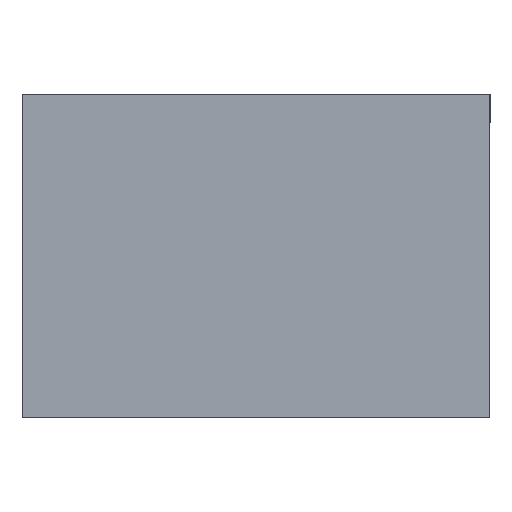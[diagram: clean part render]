
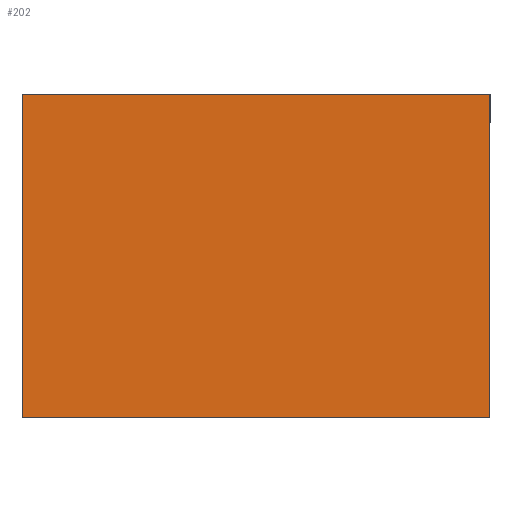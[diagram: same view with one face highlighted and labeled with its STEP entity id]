
A CAD part, front view. The second image highlights one B-rep face of the part: STEP entity #202.
In plain terms, the highlighted planar face has unit normal (0, -1, 0).
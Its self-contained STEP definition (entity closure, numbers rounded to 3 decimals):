
#45 = VECTOR ( 'NONE', #1261, 1000. ) ;
#56 = VECTOR ( 'NONE', #1037, 1000. ) ;
#69 = DIRECTION ( 'NONE',  ( 0., 0., 1. ) ) ;
#71 = AXIS2_PLACEMENT_3D ( 'NONE', #606, #501, #69 ) ;
#92 = LINE ( 'NONE', #189, #140 ) ;
#140 = VECTOR ( 'NONE', #186, 1000. ) ;
#172 = VERTEX_POINT ( 'NONE', #1539 ) ;
#186 = DIRECTION ( 'NONE',  ( 0., 0., -1. ) ) ;
#189 = CARTESIAN_POINT ( 'NONE',  ( 32.5, 0., -22.5 ) ) ;
#202 = ADVANCED_FACE ( 'NONE', ( #1115 ), #996, .F. ) ;
#302 = CARTESIAN_POINT ( 'NONE',  ( -32.5, 0., -22.5 ) ) ;
#359 = LINE ( 'NONE', #1275, #45 ) ;
#473 = CARTESIAN_POINT ( 'NONE',  ( 32.5, 0., 22.5 ) ) ;
#501 = DIRECTION ( 'NONE',  ( 0., 1., 0. ) ) ;
#606 = CARTESIAN_POINT ( 'NONE',  ( 0., 0., 0. ) ) ;
#610 = CARTESIAN_POINT ( 'NONE',  ( -32.5, 0., 22.5 ) ) ;
#795 = ORIENTED_EDGE ( 'NONE', *, *, #1024, .F. ) ;
#849 = EDGE_CURVE ( 'NONE', #2027, #2033, #359, .T. ) ;
#890 = ORIENTED_EDGE ( 'NONE', *, *, #941, .F. ) ;
#941 = EDGE_CURVE ( 'NONE', #2033, #172, #92, .T. ) ;
#992 = EDGE_CURVE ( 'NONE', #172, #1510, #2084, .T. ) ;
#996 = PLANE ( 'NONE',  #71 ) ;
#1023 = CARTESIAN_POINT ( 'NONE',  ( -32.5, 0., -22.5 ) ) ;
#1024 = EDGE_CURVE ( 'NONE', #1510, #2027, #2287, .T. ) ;
#1037 = DIRECTION ( 'NONE',  ( 0., 0., 1. ) ) ;
#1084 = CARTESIAN_POINT ( 'NONE',  ( -32.5, 0., -22.5 ) ) ;
#1093 = DIRECTION ( 'NONE',  ( -1., 0., 0. ) ) ;
#1115 = FACE_OUTER_BOUND ( 'NONE', #1423, .T. ) ;
#1162 = ORIENTED_EDGE ( 'NONE', *, *, #992, .F. ) ;
#1261 = DIRECTION ( 'NONE',  ( 1., 0., 0. ) ) ;
#1275 = CARTESIAN_POINT ( 'NONE',  ( -32.5, 0., 22.5 ) ) ;
#1423 = EDGE_LOOP ( 'NONE', ( #890, #1707, #795, #1162 ) ) ;
#1510 = VERTEX_POINT ( 'NONE', #302 ) ;
#1539 = CARTESIAN_POINT ( 'NONE',  ( 32.5, 0., -22.5 ) ) ;
#1707 = ORIENTED_EDGE ( 'NONE', *, *, #849, .F. ) ;
#2027 = VERTEX_POINT ( 'NONE', #610 ) ;
#2033 = VERTEX_POINT ( 'NONE', #473 ) ;
#2084 = LINE ( 'NONE', #1084, #2230 ) ;
#2230 = VECTOR ( 'NONE', #1093, 1000. ) ;
#2287 = LINE ( 'NONE', #1023, #56 ) ;
